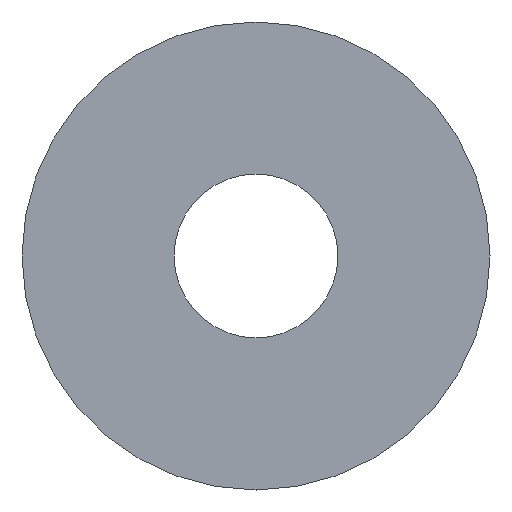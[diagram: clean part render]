
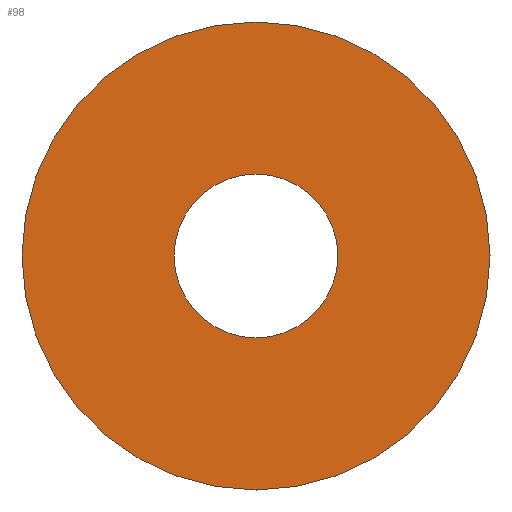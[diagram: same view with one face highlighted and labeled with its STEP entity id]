
A CAD part, front view. The second image highlights one B-rep face of the part: STEP entity #98.
In plain terms, the highlighted planar face has unit normal (0, -1, 0).
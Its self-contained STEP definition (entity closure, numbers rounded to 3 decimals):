
#5 = ORIENTED_EDGE ( 'NONE', *, *, #6, .T. ) ;
#6 = EDGE_CURVE ( 'NONE', #251, #59, #193, .T. ) ;
#9 = CARTESIAN_POINT ( 'NONE',  ( 0., 0., 0. ) ) ;
#12 = DIRECTION ( 'NONE',  ( 0., 1., 0. ) ) ;
#13 = VERTEX_POINT ( 'NONE', #146 ) ;
#16 = EDGE_CURVE ( 'NONE', #59, #251, #141, .T. ) ;
#20 = CIRCLE ( 'NONE', #139, 2. ) ;
#22 = AXIS2_PLACEMENT_3D ( 'NONE', #9, #173, #170 ) ;
#30 = CARTESIAN_POINT ( 'NONE',  ( 0., 0., 0. ) ) ;
#32 = EDGE_LOOP ( 'NONE', ( #112, #46 ) ) ;
#40 = CARTESIAN_POINT ( 'NONE',  ( 0., 0., 0. ) ) ;
#46 = ORIENTED_EDGE ( 'NONE', *, *, #279, .F. ) ;
#56 = CARTESIAN_POINT ( 'NONE',  ( 2., 0., 0. ) ) ;
#58 = FACE_BOUND ( 'NONE', #116, .T. ) ;
#59 = VERTEX_POINT ( 'NONE', #218 ) ;
#70 = DIRECTION ( 'NONE',  ( 0., 1., 0. ) ) ;
#89 = VERTEX_POINT ( 'NONE', #56 ) ;
#93 = ORIENTED_EDGE ( 'NONE', *, *, #16, .T. ) ;
#95 = AXIS2_PLACEMENT_3D ( 'NONE', #30, #70, #264 ) ;
#98 = ADVANCED_FACE ( 'NONE', ( #258, #58 ), #223, .F. ) ;
#112 = ORIENTED_EDGE ( 'NONE', *, *, #291, .F. ) ;
#116 = EDGE_LOOP ( 'NONE', ( #5, #93 ) ) ;
#123 = AXIS2_PLACEMENT_3D ( 'NONE', #131, #290, #228 ) ;
#126 = AXIS2_PLACEMENT_3D ( 'NONE', #150, #12, #132 ) ;
#131 = CARTESIAN_POINT ( 'NONE',  ( 2., 0., 0. ) ) ;
#132 = DIRECTION ( 'NONE',  ( -1., 0., 0. ) ) ;
#139 = AXIS2_PLACEMENT_3D ( 'NONE', #40, #275, #208 ) ;
#141 = CIRCLE ( 'NONE', #22, 0.7 ) ;
#146 = CARTESIAN_POINT ( 'NONE',  ( -2., 0., 0. ) ) ;
#150 = CARTESIAN_POINT ( 'NONE',  ( 0., 0., 0. ) ) ;
#151 = CARTESIAN_POINT ( 'NONE',  ( -0.7, 0., 0. ) ) ;
#170 = DIRECTION ( 'NONE',  ( -1., 0., 0. ) ) ;
#173 = DIRECTION ( 'NONE',  ( 0., 1., 0. ) ) ;
#189 = CIRCLE ( 'NONE', #126, 2. ) ;
#193 = CIRCLE ( 'NONE', #95, 0.7 ) ;
#208 = DIRECTION ( 'NONE',  ( -1., 0., 0. ) ) ;
#218 = CARTESIAN_POINT ( 'NONE',  ( 0.7, 0., 0. ) ) ;
#223 = PLANE ( 'NONE',  #123 ) ;
#228 = DIRECTION ( 'NONE',  ( -1., 0., 0. ) ) ;
#251 = VERTEX_POINT ( 'NONE', #151 ) ;
#258 = FACE_OUTER_BOUND ( 'NONE', #32, .T. ) ;
#264 = DIRECTION ( 'NONE',  ( -1., 0., 0. ) ) ;
#275 = DIRECTION ( 'NONE',  ( 0., 1., 0. ) ) ;
#279 = EDGE_CURVE ( 'NONE', #89, #13, #189, .T. ) ;
#290 = DIRECTION ( 'NONE',  ( 0., 1., 0. ) ) ;
#291 = EDGE_CURVE ( 'NONE', #13, #89, #20, .T. ) ;
